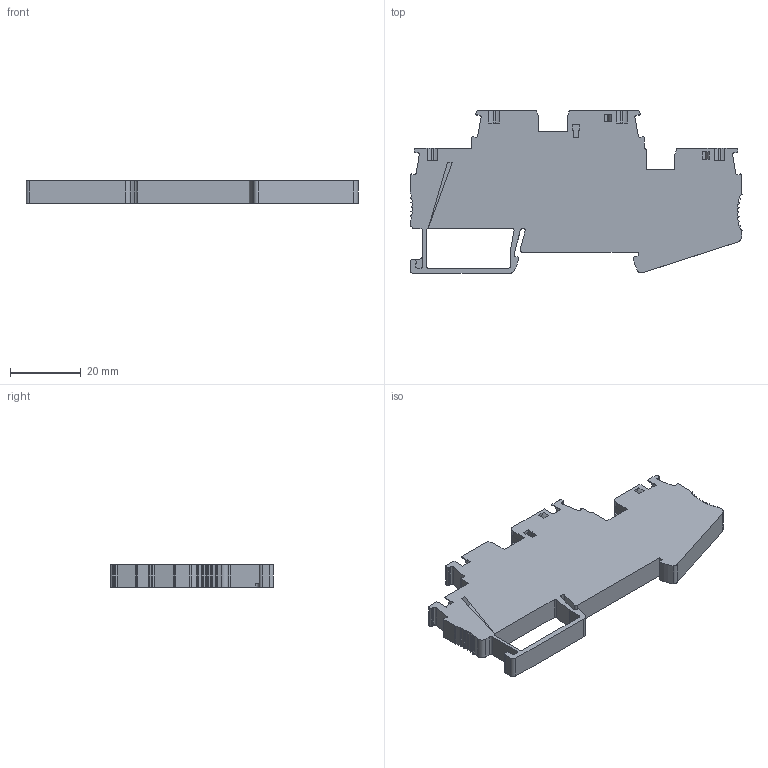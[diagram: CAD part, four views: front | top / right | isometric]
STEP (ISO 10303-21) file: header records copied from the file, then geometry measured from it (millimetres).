
FILE_DESCRIPTION(/* description */ (''),/* implementation_level */ '2;1');
FILE_NAME(/* name */ '815209_MTS_D4.stp',/* time_stamp */ '2019-03-14T16:23:53+08:00',/* author */ (''),/* organization */ (''),/* preprocessor_version */ 'ST-DEVELOPER v11',/* originating_system */ 'SIEMENS UGS NX 6.0',/* authorisation */ '');
FILE_SCHEMA (('AUTOMOTIVE_DESIGN { 1 0 10303 214 1 1 1 1 }'));
Length unit declared in the file: millimetre
Products named in the file (1): MTS_D4
Bounding box: 93.53 x 45.85 x 6.2 mm (x, y, z)
Surface area: 9690.2 mm2 (no closed solid volume)
Topology: 0 solids, 1 shells, 378 faces, 1081 edges, 714 vertices
Faces by surface type: plane 274, cylinder 104
Entity records: 14933 total; most frequent: CARTESIAN_POINT 2596, ORIENTED_EDGE 2184, DIRECTION 1925, EDGE_CURVE 1092, LINE 753, VECTOR 753, VERTEX_POINT 729, AXIS2_PLACEMENT_3D 586
